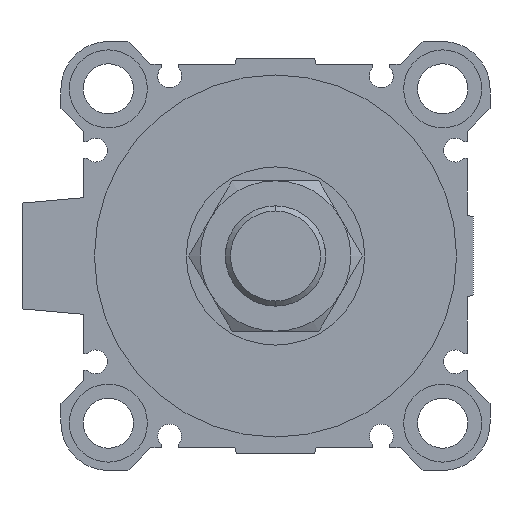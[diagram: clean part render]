
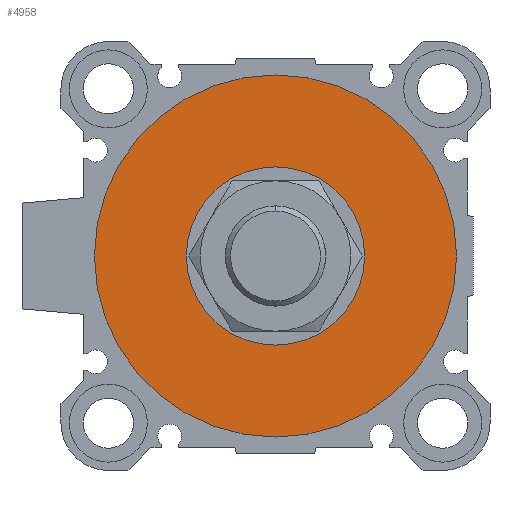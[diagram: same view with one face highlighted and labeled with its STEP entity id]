
A CAD part, left-side view. The second image highlights one B-rep face of the part: STEP entity #4958.
In plain terms, the highlighted planar face has unit normal (-1, 0, 0).
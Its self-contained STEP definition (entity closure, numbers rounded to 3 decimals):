
#188 = AXIS2_PLACEMENT_3D ( 'NONE', #5473, #6923, #7236 ) ;
#206 = ORIENTED_EDGE ( 'NONE', *, *, #6793, .T. ) ;
#656 = DIRECTION ( 'NONE',  ( 1., 0., 0. ) ) ;
#1084 = CARTESIAN_POINT ( 'NONE',  ( 4., 0., 0. ) ) ;
#1193 = VERTEX_POINT ( 'NONE', #3092 ) ;
#1232 = FACE_OUTER_BOUND ( 'NONE', #7173, .T. ) ;
#1888 = VERTEX_POINT ( 'NONE', #7471 ) ;
#2631 = DIRECTION ( 'NONE',  ( 1., 0., 0. ) ) ;
#2986 = EDGE_LOOP ( 'NONE', ( #206, #6615 ) ) ;
#3003 = DIRECTION ( 'NONE',  ( 0., 1., 0. ) ) ;
#3092 = CARTESIAN_POINT ( 'NONE',  ( 4., 0., -16. ) ) ;
#3781 = CARTESIAN_POINT ( 'NONE',  ( 4., 0., 0. ) ) ;
#4003 = CIRCLE ( 'NONE', #188, 32.5 ) ;
#4037 = DIRECTION ( 'NONE',  ( 0., 0., -1. ) ) ;
#4054 = EDGE_CURVE ( 'NONE', #1193, #4250, #5203, .T. ) ;
#4229 = FACE_BOUND ( 'NONE', #2986, .T. ) ;
#4250 = VERTEX_POINT ( 'NONE', #6474 ) ;
#4495 = CARTESIAN_POINT ( 'NONE',  ( 4., 0., -32.5 ) ) ;
#4785 = ORIENTED_EDGE ( 'NONE', *, *, #7075, .F. ) ;
#4958 = ADVANCED_FACE ( 'NONE', ( #1232, #4229 ), #5286, .F. ) ;
#4959 = AXIS2_PLACEMENT_3D ( 'NONE', #6207, #6098, #6739 ) ;
#5098 = DIRECTION ( 'NONE',  ( 1., 0., 0. ) ) ;
#5203 = CIRCLE ( 'NONE', #6672, 16. ) ;
#5286 = PLANE ( 'NONE',  #5402 ) ;
#5402 = AXIS2_PLACEMENT_3D ( 'NONE', #5908, #656, #3003 ) ;
#5415 = ORIENTED_EDGE ( 'NONE', *, *, #7399, .F. ) ;
#5464 = DIRECTION ( 'NONE',  ( 0., 0., -1. ) ) ;
#5473 = CARTESIAN_POINT ( 'NONE',  ( 4., 0., 0. ) ) ;
#5908 = CARTESIAN_POINT ( 'NONE',  ( 4., 0., 0. ) ) ;
#6098 = DIRECTION ( 'NONE',  ( 1., 0., 0. ) ) ;
#6207 = CARTESIAN_POINT ( 'NONE',  ( 4., 0., 0. ) ) ;
#6309 = CIRCLE ( 'NONE', #4959, 16. ) ;
#6474 = CARTESIAN_POINT ( 'NONE',  ( 4., 0., 16. ) ) ;
#6615 = ORIENTED_EDGE ( 'NONE', *, *, #4054, .T. ) ;
#6672 = AXIS2_PLACEMENT_3D ( 'NONE', #1084, #5098, #4037 ) ;
#6739 = DIRECTION ( 'NONE',  ( 0., 0., -1. ) ) ;
#6793 = EDGE_CURVE ( 'NONE', #4250, #1193, #6309, .T. ) ;
#6795 = VERTEX_POINT ( 'NONE', #4495 ) ;
#6862 = AXIS2_PLACEMENT_3D ( 'NONE', #3781, #2631, #5464 ) ;
#6923 = DIRECTION ( 'NONE',  ( 1., 0., 0. ) ) ;
#7075 = EDGE_CURVE ( 'NONE', #6795, #1888, #4003, .T. ) ;
#7173 = EDGE_LOOP ( 'NONE', ( #5415, #4785 ) ) ;
#7236 = DIRECTION ( 'NONE',  ( 0., 0., -1. ) ) ;
#7399 = EDGE_CURVE ( 'NONE', #1888, #6795, #7465, .T. ) ;
#7465 = CIRCLE ( 'NONE', #6862, 32.5 ) ;
#7471 = CARTESIAN_POINT ( 'NONE',  ( 4., 0., 32.5 ) ) ;
